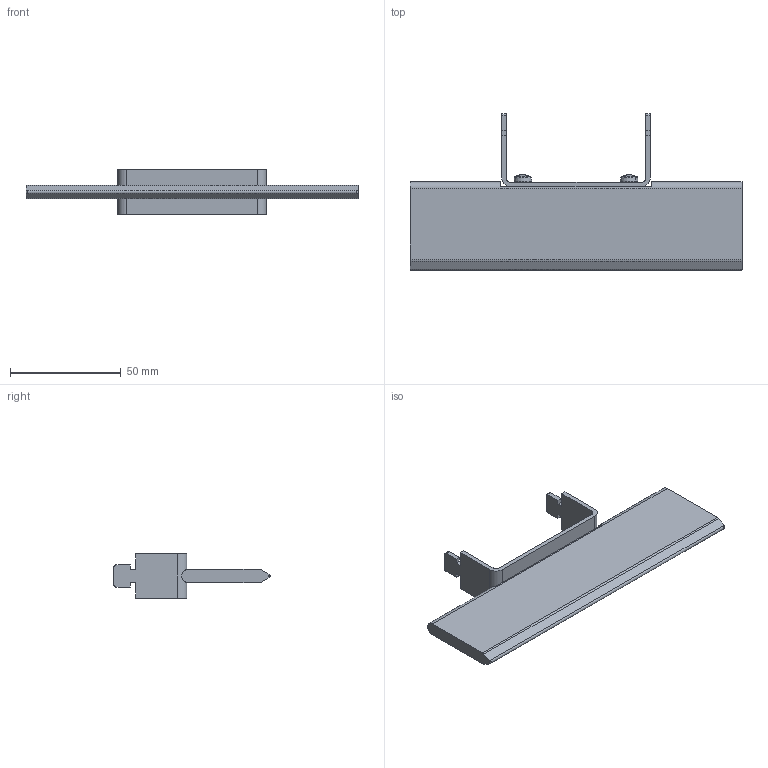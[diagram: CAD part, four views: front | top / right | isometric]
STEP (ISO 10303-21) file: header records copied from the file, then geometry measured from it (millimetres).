
FILE_DESCRIPTION (( 'STEP AP214' ), '1' );
FILE_NAME ('ZP3_1000.step', '2011-08-23T10:46:13', ( 'Radek Veselý' ), ( 'Siemens and Partners' ), 'SwSTEP 2.0', 'SolidWorks 2006303', '' );
FILE_SCHEMA (( 'AUTOMOTIVE_DESIGN' ));
Length unit declared in the file: millimetre
Products named in the file (1): ZP3_1000
Bounding box: 150 x 70.7 x 20 mm (x, y, z)
Volume: 37915.2 mm3; surface area: 19113.8 mm2
Topology: 4 solids, 4 shells, 143 faces, 376 edges, 238 vertices
Faces by surface type: plane 81, cylinder 36, cone 12, torus 8, sphere 4, bspline 2
Entity records: 6470 total; most frequent: CARTESIAN_POINT 1343, ORIENTED_EDGE 736, DIRECTION 732, EDGE_CURVE 368, AXIS2_PLACEMENT_3D 258, VERTEX_POINT 238, LINE 216, VECTOR 216
